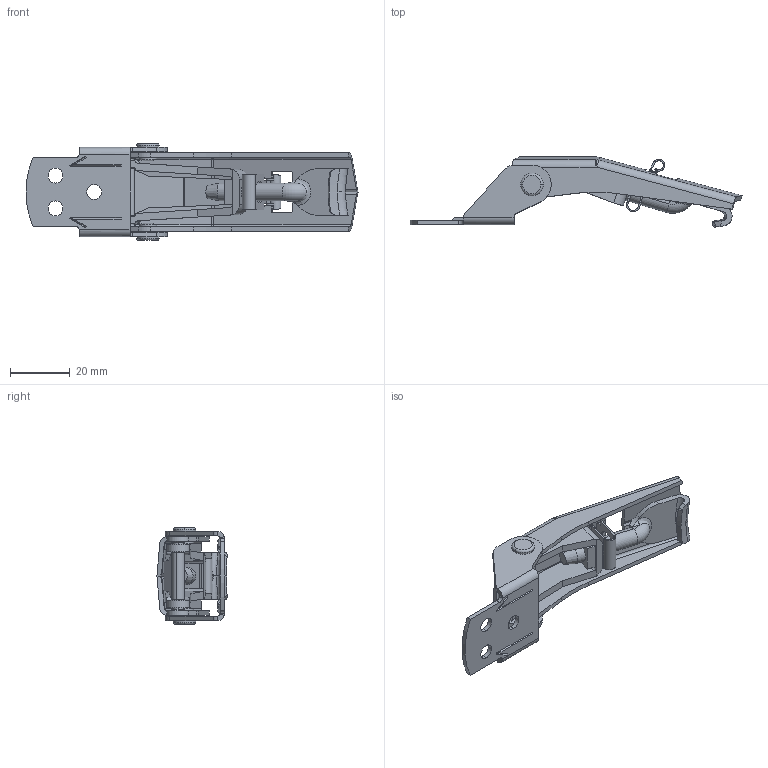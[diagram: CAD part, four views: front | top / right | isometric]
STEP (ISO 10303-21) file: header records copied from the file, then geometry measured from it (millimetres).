
FILE_DESCRIPTION (( 'STEP AP214' ), '1' );
FILE_NAME ('1449L02-1X1_Dummy.STEP', '2009-10-15T12:55:16', ( '' ), ( '' ), 'SwSTEP 2.0', 'SolidWorks 2007', '' );
FILE_SCHEMA (( 'AUTOMOTIVE_DESIGN' ));
Length unit declared in the file: millimetre
Products named in the file (1): 1449L02-1X1_Dummy
Bounding box: 111.4 x 23.55 x 32.45 mm (x, y, z)
Volume: 11164.1 mm3; surface area: 15492.3 mm2
Topology: 1 solids, 1 shells, 412 faces, 1069 edges, 669 vertices
Faces by surface type: plane 186, cylinder 143, bspline 44, torus 25, cone 14
Entity records: 13721 total; most frequent: CARTESIAN_POINT 4107, ORIENTED_EDGE 2126, DIRECTION 1881, EDGE_CURVE 1063, VERTEX_POINT 669, AXIS2_PLACEMENT_3D 661, VECTOR 559, LINE 559
